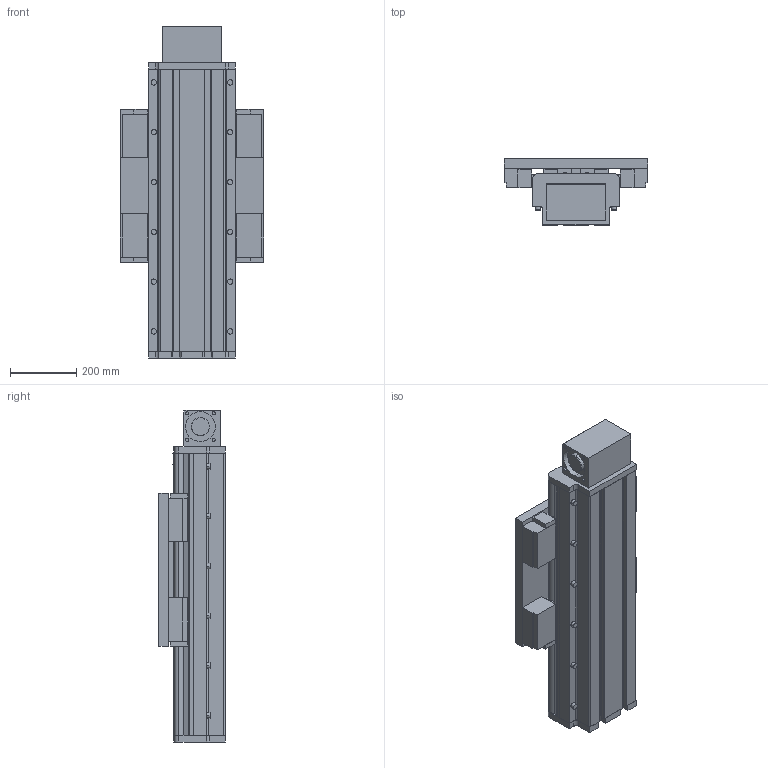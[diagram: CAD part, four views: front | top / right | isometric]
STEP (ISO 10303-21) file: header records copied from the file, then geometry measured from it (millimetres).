
FILE_DESCRIPTION (( 'STEP AP214' ), '1' );
FILE_NAME ('ALLZ203 - Konfig - ED.STEP', '2022-06-28T12:16:38', ( '' ), ( '' ), 'SwSTEP 2.0', 'SolidWorks 2020', '' );
FILE_SCHEMA (( 'AUTOMOTIVE_DESIGN' ));
Length unit declared in the file: millimetre
Products named in the file (6): carriage^ALLZ203 - Konfig - ED; end plate^ALLZ203 - Konfig - ED_standard; timing belt reverse unit^ALLZ203 - Konfig - ED_coupling claw pos.1; ALLZ203 - Konfig - ED; end plate^ALLZ203 - Konfig - ED_bumper; profile^ALLZ203 - Konfig - ED
Assembly tree (5 placements, depth 2):
  ALLZ203 - Konfig - ED
    profile^ALLZ203 - Konfig - ED
    timing belt reverse unit^ALLZ203 - Konfig - ED_coupling claw pos.1
    carriage^ALLZ203 - Konfig - ED
    end plate^ALLZ203 - Konfig - ED_bumper
    end plate^ALLZ203 - Konfig - ED_standard
Bounding box: 432 x 200.5 x 1000 mm (x, y, z)
Volume: 38604226.1 mm3; surface area: 2608683.3 mm2
Topology: 35 solids, 35 shells, 650 faces, 1488 edges, 986 vertices
Faces by surface type: plane 420, cylinder 220, cone 10
Entity records: 19110 total; most frequent: DIRECTION 3250, CARTESIAN_POINT 3124, ORIENTED_EDGE 2960, EDGE_CURVE 1480, AXIS2_PLACEMENT_3D 1112, LINE 1026, VECTOR 1026, VERTEX_POINT 986
